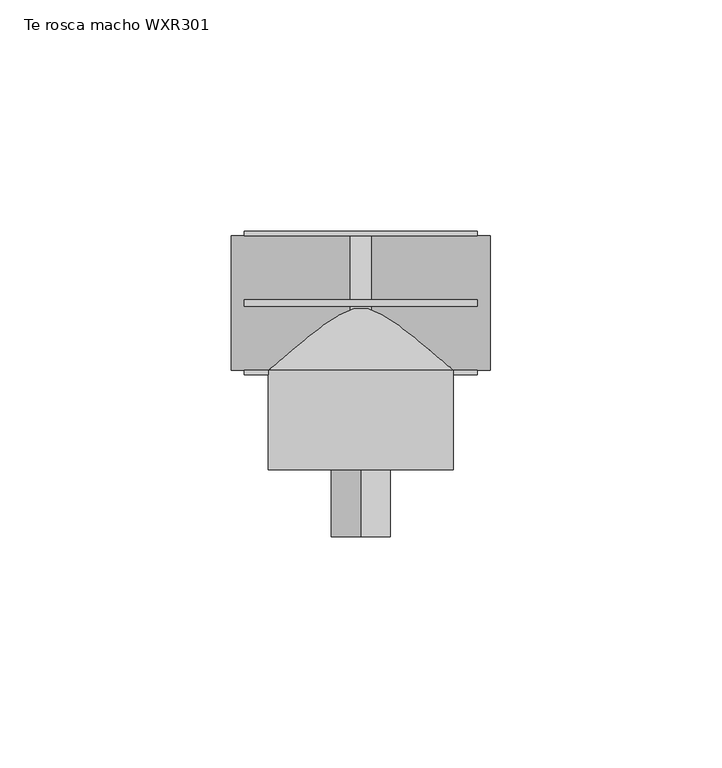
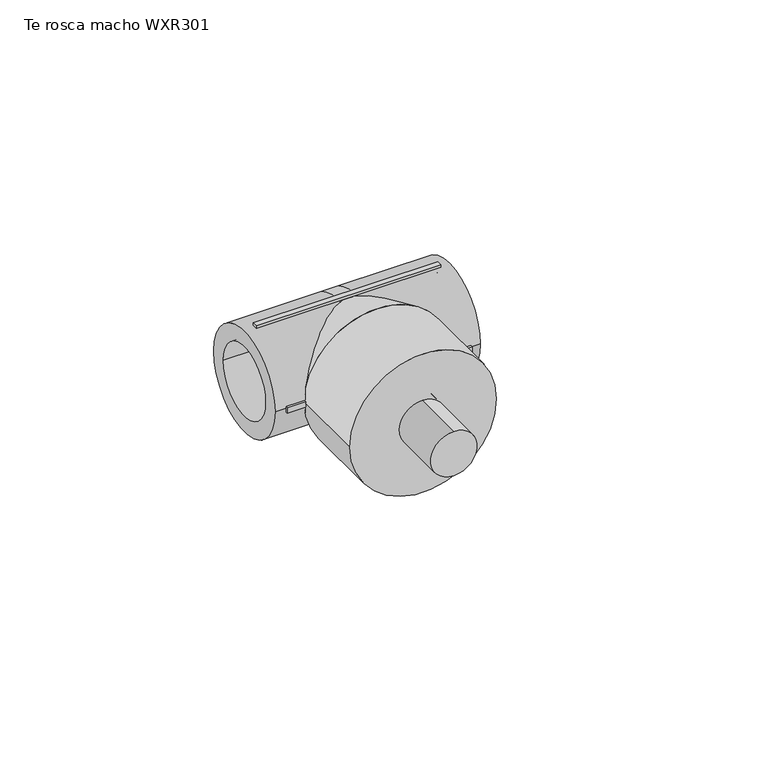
"""IFC4 building model written with IfcOpenShell, lengths in millimetres: pipe fitting geometry, EGB_VASEN_ PPR_Te rosca macho WXR301 : Te rosca macho WXR301."""

from ifc_helpers import new_model, si_unit, point, frame, origin, origin_2d, place, context, project, spatial, polyline, circle_curve, trimmed, segment, composite_curve, outline, extrude, source, transform, mapped, element, save
from ifc_brep_helpers import plane_surface, cylinder_surface, revolved_surface, advanced_brep


def te_rosca_macho_wxr301_b9769b35(model_context):
    return source(origin(), model_context, "Body", "SolidModel", [
        extrude(outline(composite_curve([segment(trimmed(circle_curve(origin_2d(), 6.35), [point((-6.35, 0.0))], [point((6.35, 0.0))], False, "CARTESIAN"), True, "CONTINUOUS"), segment(trimmed(circle_curve(origin_2d(), 6.35), [point((6.35, 0.0))], [point((-6.35, 0.0))], False, "CARTESIAN"), True, "CONTINUOUS")], self_intersect=False)), frame((0.0, -50.5, 0.0), z_axis=(0.0, 1.0, 0.0), x_axis=(0.0, 0.0, 1.0)), (0.0, 0.0, 1.0), 35.0),
        advanced_brep(
        [(2.24, -10.0, 0.0), (2.24, 10.0, 0.0), (-2.24, 10.0, 0.0), (-2.24, -10.0, 0.0), (-2.24, 14.5, 0.0), (2.24, 14.5, 0.0), (2.24, -14.5, 0.0), (-2.24, -14.5, 0.0), (28.0, -14.5, 0.0), (28.0, 14.5, 0.0), (28.0, -10.0, 0.0), (28.0, 10.0, 0.0), (-28.0, -14.5, 0.0), (-28.0, 14.5, 0.0), (-28.0, -10.0, 0.0), (-28.0, 10.0, 0.0)],
        [
            (0, 1, circle_curve(frame((2.24, 0.0, 0.0), z_axis=(1.0, 0.0, 0.0), x_axis=(0.0, 1.0, 0.0)), 10.0)),
            (1, 0, circle_curve(frame((2.24, 0.0, 0.0), z_axis=(1.0, 0.0, 0.0), x_axis=(0.0, 1.0, 0.0)), 10.0)),
            (2, 3, circle_curve(frame((-2.24, 0.0, 0.0), z_axis=(-1.0, 0.0, 0.0), x_axis=(0.0, 1.0, 0.0)), 10.0)),
            (3, 2, circle_curve(frame((-2.24, 0.0, 0.0), z_axis=(-1.0, 0.0, 0.0), x_axis=(0.0, 1.0, 0.0)), 10.0)),
            (4, 5),
            (5, 6, circle_curve(frame((2.24, 0.0, 0.0), z_axis=(-1.0, 0.0, 0.0), x_axis=(0.0, 0.0, -1.0)), 14.5)),
            (6, 7),
            (7, 4, circle_curve(frame((-2.24, 0.0, 0.0), z_axis=(1.0, 0.0, 0.0), x_axis=(0.0, 0.0, -1.0)), 14.5)),
            (4, 7, circle_curve(frame((-2.24, 0.0, 0.0), z_axis=(1.0, 0.0, 0.0), x_axis=(0.0, 0.0, 1.0)), 14.5)),
            (6, 5, circle_curve(frame((2.24, 0.0, 0.0), z_axis=(-1.0, 0.0, 0.0), x_axis=(0.0, 0.0, 1.0)), 14.5)),
            (8, 9, circle_curve(frame((28.0, 0.0, 0.0), z_axis=(1.0, 0.0, 0.0), x_axis=(0.0, 1.0, 0.0)), 14.5)),
            (9, 8, circle_curve(frame((28.0, 0.0, 0.0), z_axis=(1.0, 0.0, 0.0), x_axis=(0.0, 1.0, 0.0)), 14.5)),
            (10, 11, circle_curve(frame((28.0, 0.0, 0.0), z_axis=(-1.0, 0.0, 0.0), x_axis=(0.0, 1.0, 0.0)), 10.0)),
            (11, 10, circle_curve(frame((28.0, 0.0, 0.0), z_axis=(-1.0, 0.0, 0.0), x_axis=(0.0, 1.0, 0.0)), 10.0)),
            (9, 5),
            (6, 8),
            (11, 1),
            (0, 10),
            (12, 13, circle_curve(frame((-28.0, 0.0, 0.0), z_axis=(-1.0, 0.0, 0.0), x_axis=(0.0, 1.0, 0.0)), 14.5)),
            (13, 12, circle_curve(frame((-28.0, 0.0, 0.0), z_axis=(-1.0, 0.0, 0.0), x_axis=(0.0, 1.0, 0.0)), 14.5)),
            (14, 15, circle_curve(frame((-28.0, 0.0, 0.0), z_axis=(1.0, 0.0, 0.0), x_axis=(0.0, 1.0, 0.0)), 10.0)),
            (15, 14, circle_curve(frame((-28.0, 0.0, 0.0), z_axis=(1.0, 0.0, 0.0), x_axis=(0.0, 1.0, 0.0)), 10.0)),
            (12, 7),
            (4, 13),
            (14, 3),
            (2, 15),
        ],
        [
            plane_surface(frame((2.24, 0.0, 0.0), z_axis=(1.0, 0.0, 0.0), x_axis=(0.0, 0.0, -1.0))),
            plane_surface(frame((-2.24, 0.0, 0.0), z_axis=(-1.0, 0.0, 0.0), x_axis=(0.0, 0.0, -1.0))),
            cylinder_surface(frame((-2.24, 0.0, 0.0), z_axis=(1.0, 0.0, 0.0), x_axis=(0.0, 0.0, -1.0)), 14.5),
            cylinder_surface(frame((-2.24, 0.0, 0.0), z_axis=(1.0, 0.0, 0.0), x_axis=(0.0, 0.0, 1.0)), 14.5),
            plane_surface(frame((28.0, 0.0, 0.0), z_axis=(1.0, 0.0, 0.0), x_axis=(0.0, 0.0, 1.0))),
            cylinder_surface(frame((2.24, 0.0, 0.0), z_axis=(-1.0, 0.0, 0.0), x_axis=(0.0, 1.0, 0.0)), 14.5),
            revolved_surface(polyline([(28.0, 10.0, 0.0), (2.24, 10.0, 0.0)]), (2.24, 0.0, 0.0), (1.0, 0.0, 0.0)),
            plane_surface(frame((-28.0, 0.0, 0.0), z_axis=(-1.0, 0.0, 0.0), x_axis=(0.0, 0.0, 1.0))),
            cylinder_surface(frame((-28.0, 0.0, 0.0), z_axis=(-1.0, 0.0, 0.0), x_axis=(0.0, 1.0, 0.0)), 14.5),
            revolved_surface(polyline([(-2.240000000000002, 10.0, 0.0), (-28.0, 10.0, 0.0)]), (-28.0, 0.0, 0.0), (1.0, 0.0, 0.0)),
        ],
        [
            (0, [[1, 2]]),
            (1, [[3, 4]]),
            (2, [[5, 6, 7, 8]]),
            (3, [[-5, 9, -7, 10]]),
            (4, [[11, 12], [13, 14]]),
            (5, [[-12, 15, -10, 16]]),
            (5, [[-11, -16, -6, -15]]),
            (6, [[-14, 17, -1, 18]]),
            (6, [[-13, -18, -2, -17]]),
            (7, [[19, 20], [21, 22]]),
            (8, [[-19, 23, -9, 24]]),
            (8, [[-20, -24, -8, -23]]),
            (9, [[-21, 25, -3, 26]]),
            (9, [[-22, -26, -4, -25]]),
        ],
    ),
        extrude(outline(composite_curve([segment(trimmed(circle_curve(origin_2d(), 20.0), [point((0.0, 20.0))], [point((0.0, -20.0))], False, "CARTESIAN"), True, "CONTINUOUS"), segment(trimmed(circle_curve(origin_2d(), 20.0), [point((0.0, -20.0))], [point((0.0, 20.0))], False, "CARTESIAN"), True, "CONTINUOUS")], self_intersect=False), holes=[composite_curve([segment(trimmed(circle_curve(origin_2d(), 6.35), [point((0.0, 6.35))], [point((0.0, -6.35))], True, "CARTESIAN"), True, "CONTINUOUS"), segment(trimmed(circle_curve(origin_2d(), 6.35), [point((0.0, -6.35))], [point((0.0, 6.35))], True, "CARTESIAN"), True, "CONTINUOUS")], self_intersect=False)]), frame((0.0, -36.0, 0.0), z_axis=(0.0, 1.0, 0.0), x_axis=(0.0, 0.0, 1.0)), (0.0, 0.0, 1.0), 21.5),
        advanced_brep(
        [(14.5, 0.0, 0.0), (-14.5, 0.0, 0.0), (20.0, -14.5, 0.0), (-20.0, -14.5, 0.0)],
        [
            (0, 1, circle_curve(frame((0.0, 0.0, 0.0), z_axis=(0.0, 1.0, 0.0), x_axis=(1.0, 0.0, 0.0)), 14.5)),
            (1, 0, circle_curve(frame((0.0, 0.0, 0.0), z_axis=(0.0, 1.0, 0.0), x_axis=(-1.0, 0.0, 0.0)), 14.5)),
            (2, 3, circle_curve(frame((0.0, -14.5, 0.0), z_axis=(0.0, -1.0, 0.0), x_axis=(-1.0, 0.0, 0.0)), 20.0)),
            (3, 2, circle_curve(frame((0.0, -14.5, 0.0), z_axis=(0.0, -1.0, 0.0), x_axis=(1.0, 0.0, 0.0)), 20.0)),
            (3, 1),
            (0, 2),
        ],
        [
            plane_surface(frame((0.0, 0.0, 0.0), z_axis=(0.0, 1.0, 0.0), x_axis=(0.0, 0.0, -1.0))),
            plane_surface(frame((0.0, -14.5, 0.0), z_axis=(0.0, -1.0, 0.0), x_axis=(0.0, 0.0, -1.0))),
            revolved_surface(polyline([(14.499999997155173, 0.0, 0.0), (20.0, -14.5, 0.0)]), (0.0, 38.2272727, 0.0), (0.0, -1.0, 0.0)),
            revolved_surface(polyline([(-14.499999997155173, 0.0, 0.0), (-20.0, -14.5, 0.0)]), (0.0, 38.2272727, 0.0), (0.0, -1.0, 0.0)),
        ],
        [
            (0, [[1, 2]]),
            (1, [[3, 4]]),
            (2, [[-4, 5, -1, 6]]),
            (3, [[-3, -6, -2, -5]]),
        ],
    ),
        extrude(outline(polyline([(25.2, 0.75), (25.2, -0.75), (-25.2, -0.75), (-25.2, 0.75), (25.2, 0.75)])), frame((0.0, 0.0, 13.5), z_axis=(0.0, 0.0, 1.0), x_axis=(1.0, 0.0, 0.0)), (0.0, 0.0, 1.0), 2.0),
        extrude(outline(polyline([(25.2, 0.75), (25.2, -0.75), (-25.2, -0.75), (-25.2, 0.75), (25.2, 0.75)])), frame((0.0, 0.0, -15.5), z_axis=(0.0, 0.0, 1.0), x_axis=(1.0, 0.0, 0.0)), (0.0, 0.0, 1.0), 2.0),
        extrude(outline(polyline([(25.2, 15.5), (25.2, 13.5), (-25.2, 13.5), (-25.2, 15.5), (25.2, 15.5)])), frame((0.0, 0.0, -0.75), z_axis=(0.0, 0.0, 1.0), x_axis=(1.0, 0.0, 0.0)), (0.0, 0.0, 1.0), 1.5),
        extrude(outline(polyline([(25.2, -13.5), (25.2, -15.5), (-25.2, -15.5), (-25.2, -13.5), (25.2, -13.5)])), frame((0.0, 0.0, -0.75), z_axis=(0.0, 0.0, 1.0), x_axis=(1.0, 0.0, 0.0)), (0.0, 0.0, 1.0), 1.5),
    ])


if __name__ == "__main__":
    model = new_model("IFC4")
    model_context = context("Model", 3, world=origin())
    ifc_project = project(units=[si_unit("LENGTHUNIT", "METRE", prefix="MILLI")], contexts=[model_context])
    site = spatial("IfcSite", under=ifc_project)
    building = spatial("IfcBuilding", under=site)
    placement = place(None, origin())
    te_rosca_macho_wxr301_shape = te_rosca_macho_wxr301_b9769b35(model_context)
    element("IfcPipeFitting", 1, ObjectType="EGB_VASEN_ PPR_Te rosca macho WXR301 : Te rosca macho WXR301", at=placement, inside=building, context=model_context, shape_type="MappedRepresentation", body=[
        mapped(te_rosca_macho_wxr301_shape, transform((0.0, 0.0, 0.0), x_axis=(1.0, 0.0, 0.0), y_axis=(0.0, 1.0, 0.0), z_axis=(0.0, 0.0, 1.0))),
    ])
    save(model, "model.ifc")
